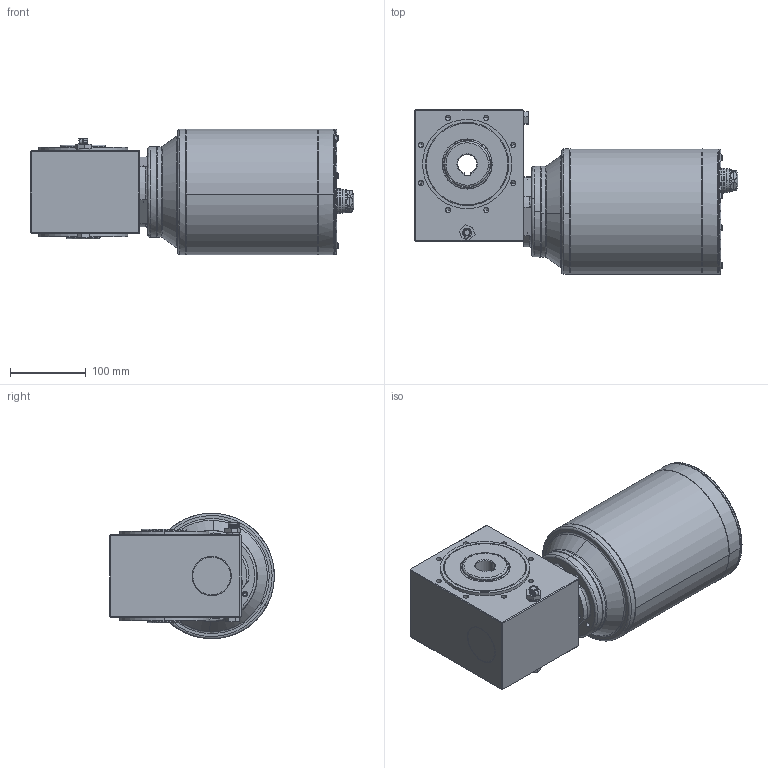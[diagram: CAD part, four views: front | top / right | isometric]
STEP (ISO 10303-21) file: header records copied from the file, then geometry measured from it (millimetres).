
FILE_DESCRIPTION (( 'STEP AP203' ), '1' );
FILE_NAME ('ESD63- K80.STEP', '2021-02-09T10:11:09', ( '' ), ( '' ), 'SwSTEP 2.0', 'SolidWorks 2012', '' );
FILE_SCHEMA (( 'CONFIG_CONTROL_DESIGN' ));
Length unit declared in the file: millimetre
Products named in the file (5): ESD63- K80; ESD063 - 80B14a; M20 -ｦｦﾎ; MK80_B14a; 80A4 B14
Assembly tree (4 placements, depth 3):
  ESD63- K80
    ESD063 - 80B14a
    MK80_B14a
      80A4 B14
      M20 -ｦｦﾎ
Bounding box: 428.1 x 217.99 x 165.97 mm (x, y, z)
Volume: 4909337 mm3; surface area: 488737.4 mm2
Topology: 3 solids, 17 shells, 929 faces, 2338 edges, 1469 vertices
Faces by surface type: cylinder 323, plane 268, cone 211, bspline 111, torus 16
Entity records: 38007 total; most frequent: CARTESIAN_POINT 15590, DIRECTION 4769, ORIENTED_EDGE 4516, EDGE_CURVE 2262, AXIS2_PLACEMENT_3D 1947, VERTEX_POINT 1467, CIRCLE 1120, EDGE_LOOP 1067
